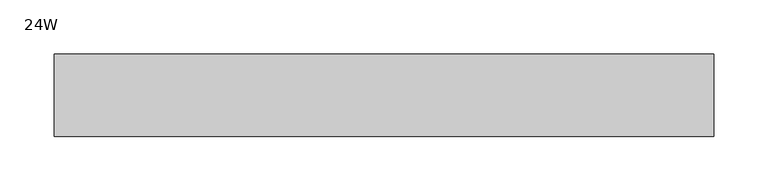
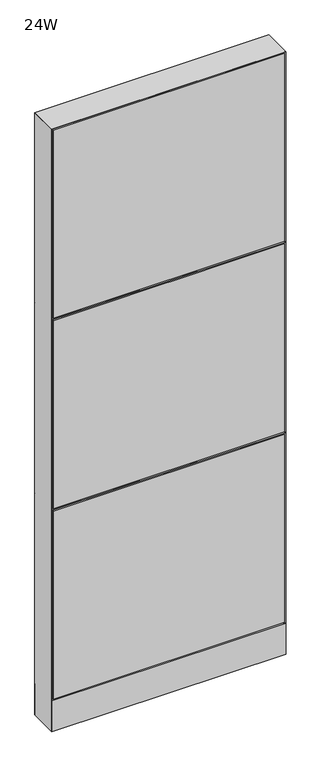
"""IFC4 building model written with IfcOpenShell, lengths in millimetres: furniture geometry, Steelcase - Montage - Frame - 65H - Enhanced Monolithic - Base Cavity : 24W."""

from ifc_helpers import new_model, si_unit, point, frame, frame_2d, origin, origin_with_axes, place, context, project, spatial, polyline, circle_curve, trimmed, segment, composite_curve, outline, extrude, faceted_brep, source, transform, mapped, element, save


def furniture_24w_cb8f0ce5(model_context):
    return source(origin(), model_context, "Body", "SolidModel", [
        extrude(outline(polyline([(3.175, 31.7500194), (3.175, 38.1000194), (606.425, 38.1000194), (606.425, 31.7500194), (3.175, 31.7500194)])), frame((0.0, 0.0, 92.075), z_axis=(0.0, 0.0, 1.0), x_axis=(1.0, 0.0, 0.0)), (0.0, 0.0, 1.0), 517.525),
        faceted_brep([(-5.4e-06, 38.102627, 612.7749973), (6.3499917, 31.7526299, 606.4250003), (6.3499917, 31.7526299, 619.1249997), (603.2500047, 31.7526299, 619.1249997), (603.2500047, 31.7526299, 606.4250003), (609.6, 38.1026253, 612.7749956)], [[[0, 1, 2]], [[3, 4, 5]], [[0, 2, 3, 5]], [[5, 4, 1, 0]], [[2, 1, 4, 3]]]),
        faceted_brep([(-5.4e-06, 38.102627, 1136.6499973), (6.3499917, 31.7526299, 1130.3000003), (6.3499917, 31.7526299, 1142.9999997), (603.2500047, 31.7526299, 1142.9999997), (603.2500047, 31.7526299, 1130.3000003), (609.6, 38.1026253, 1136.6499956)], [[[0, 1, 2]], [[3, 4, 5]], [[0, 2, 3, 5]], [[5, 4, 1, 0]], [[2, 1, 4, 3]]]),
        extrude(outline(polyline([(3.175, 31.7500194), (3.175, 38.1000194), (606.425, 38.1000194), (606.425, 31.7500194), (3.175, 31.7500194)])), frame((0.0, 0.0, 615.95), z_axis=(0.0, 0.0, 1.0), x_axis=(1.0, 0.0, 0.0)), (0.0, 0.0, 1.0), 517.525),
        extrude(outline(polyline([(3.175, 31.7500194), (3.175, 38.1000194), (606.425, 38.1000194), (606.425, 31.7500194), (3.175, 31.7500194)])), frame((0.0, 0.0, 1139.825), z_axis=(0.0, 0.0, 1.0), x_axis=(1.0, 0.0, 0.0)), (0.0, 0.0, 1.0), 517.525),
        extrude(outline(polyline([(3.175, -31.7500194), (606.425, -31.7500194), (606.425, -38.1000194), (3.175, -38.1000194), (3.175, -31.7500194)])), frame((0.0, 0.0, 92.075), z_axis=(0.0, 0.0, 1.0), x_axis=(1.0, 0.0, 0.0)), (0.0, 0.0, 1.0), 517.525),
        faceted_brep([(-5.4e-06, -38.102627, 612.7750027), (6.3499917, -31.7526299, 619.1249997), (6.3499917, -31.7526299, 606.4250003), (603.2500047, -31.7526299, 619.1249997), (609.6, -38.1026253, 612.7750044), (603.2500047, -31.7526299, 606.4250003)], [[[0, 1, 2]], [[3, 4, 5]], [[0, 4, 3, 1]], [[4, 0, 2, 5]], [[1, 3, 5, 2]]]),
        faceted_brep([(-5.4e-06, -38.102627, 1136.6500027), (6.3499917, -31.7526299, 1142.9999997), (6.3499917, -31.7526299, 1130.3000003), (603.2500047, -31.7526299, 1142.9999997), (609.6, -38.1026253, 1136.6500044), (603.2500047, -31.7526299, 1130.3000003)], [[[0, 1, 2]], [[3, 4, 5]], [[0, 4, 3, 1]], [[4, 0, 2, 5]], [[1, 3, 5, 2]]]),
        extrude(outline(polyline([(3.175, -31.7500194), (606.425, -31.7500194), (606.425, -38.1000194), (3.175, -38.1000194), (3.175, -31.7500194)])), frame((0.0, 0.0, 615.95), z_axis=(0.0, 0.0, 1.0), x_axis=(1.0, 0.0, 0.0)), (0.0, 0.0, 1.0), 517.525),
        extrude(outline(polyline([(3.175, -31.7500194), (606.425, -31.7500194), (606.425, -38.1000194), (3.175, -38.1000194), (3.175, -31.7500194)])), frame((0.0, 0.0, 1139.825), z_axis=(0.0, 0.0, 1.0), x_axis=(1.0, 0.0, 0.0)), (0.0, 0.0, 1.0), 517.525),
        extrude(outline(polyline([(6.350003, -31.7499985), (603.249997, -31.7499985), (609.6, -38.1000015), (0.0, -38.1000015), (6.350003, -31.7499985)])), frame((0.0, 0.0, 4.064), z_axis=(0.0, 0.0, 1.0), x_axis=(1.0, 0.0, 0.0)), (0.0, 0.0, 1.0), 84.835997),
        extrude(outline(polyline([(6.3500002, 31.7500017), (0.0, 38.1000015), (609.6, 38.1000015), (603.2500002, 31.7500017), (6.3500002, 31.7500017)])), frame((0.0, 0.0, 4.064), z_axis=(0.0, 0.0, 1.0), x_axis=(1.0, 0.0, 0.0)), (0.0, 0.0, 1.0), 84.835997),
        faceted_brep([(609.6, -38.1000015, 1660.525), (0.0, -38.1000015, 1660.525), (6.3500484, -31.749953, 1654.1749516), (603.2499516, -31.749953, 1654.1749516), (6.3500484, 31.749953, 1654.1749516), (603.2499516, 31.749953, 1654.1749516), (0.0, 38.1000015, 1660.525), (609.6, 38.1000015, 1660.525)], [[[0, 1, 2, 3]], [[3, 2, 4, 5]], [[6, 7, 5, 4]], [[1, 0, 7, 6]], [[2, 1, 6, 4]], [[0, 3, 5, 7]]]),
        extrude(outline(composite_curve([segment(trimmed(circle_curve(frame_2d((44.45, 0.0)), 15.24), [point((29.21, 0.0))], [point((59.69, 0.0))], False, "CARTESIAN"), True, "CONTINUOUS"), segment(trimmed(circle_curve(frame_2d((44.45, 0.0)), 15.24), [point((59.69, 0.0))], [point((29.21, 0.0))], False, "CARTESIAN"), True, "CONTINUOUS")], self_intersect=False)), origin_with_axes(), (0.0, 0.0, 1.0), 4.064),
        extrude(outline(composite_curve([segment(trimmed(circle_curve(frame_2d((565.15, 0.0)), 15.24), [point((549.91, 0.0))], [point((580.39, 0.0))], False, "CARTESIAN"), True, "CONTINUOUS"), segment(trimmed(circle_curve(frame_2d((565.15, 0.0)), 15.24), [point((580.39, 0.0))], [point((549.91, 0.0))], False, "CARTESIAN"), True, "CONTINUOUS")], self_intersect=False)), origin_with_axes(), (0.0, 0.0, 1.0), 4.064),
        faceted_brep([(609.6, -38.1000106, 4.064), (609.6, 38.1000015, 4.064), (609.6, 38.1000015, 1660.525), (609.6, -38.1000106, 1660.5249637), (0.0, 38.1000015, 4.064), (0.0, -38.1000015, 4.064), (0.0, -38.1000015, 1660.525), (0.0, 38.1000015, 1660.525), (603.2499879, 31.7500017, 606.425), (6.35, 31.7500017, 606.425), (6.3499998, 31.7500017, 619.125), (603.2499879, 31.7500017, 619.125), (6.35, -31.7499985, 619.125), (603.2499879, -31.7499985, 619.125), (6.350003, -31.7499985, 606.425), (603.2499879, -31.7499985, 606.425), (603.2499879, 31.7500017, 1130.3), (6.35, 31.7500017, 1130.3), (6.3499998, 31.7500017, 1143.0), (603.2499879, 31.7500017, 1143.0), (6.35, -31.7499985, 1143.0), (603.2499879, -31.7499985, 1143.0), (6.350003, -31.7499985, 1130.3), (603.2499879, -31.7499985, 1130.3), (6.35, 31.7500015, 4.064), (6.35, -31.7500015, 4.064), (603.2499879, 31.7499894, 4.064), (603.2499879, -31.7499985, 4.064), (6.35, 31.7500015, 1654.175), (6.35, -31.7500015, 1654.175), (603.2499879, -31.7499985, 1654.1749516), (603.2499879, 31.7499895, 1654.1749516)], [[[0, 1, 2, 3]], [[4, 5, 6, 7]], [[8, 9, 10, 11]], [[11, 10, 12, 13]], [[13, 12, 14, 15]], [[9, 8, 15, 14]], [[16, 17, 18, 19]], [[19, 18, 20, 21]], [[21, 20, 22, 23]], [[17, 16, 23, 22]], [[24, 25, 5, 4]], [[26, 1, 0, 27]], [[24, 4, 7, 28, 18, 17, 10, 9]], [[5, 25, 14, 12, 22, 20, 29, 6]], [[20, 18, 28, 29]], [[25, 24, 9, 14]], [[10, 17, 22, 12]], [[19, 21, 30, 31]], [[26, 27, 15, 8]], [[16, 11, 13, 23]], [[27, 0, 3, 30, 21, 23, 13, 15]], [[1, 26, 8, 11, 16, 19, 31, 2]], [[7, 6, 29, 28]], [[3, 2, 31, 30]]]),
    ])


if __name__ == "__main__":
    model = new_model("IFC4")
    model_context = context("Model", 3, world=origin())
    ifc_project = project(units=[si_unit("LENGTHUNIT", "METRE", prefix="MILLI")], contexts=[model_context])
    site = spatial("IfcSite", under=ifc_project)
    building = spatial("IfcBuilding", under=site)
    placement = place(None, origin())
    furniture_24w_shape = furniture_24w_cb8f0ce5(model_context)
    element("IfcFurniture", 1, ObjectType="Steelcase - Montage - Frame - 65H - Enhanced Monolithic - Base Cavity : 24W", at=placement, inside=building, context=model_context, shape_type="MappedRepresentation", body=[
        mapped(furniture_24w_shape, transform((0.0, 0.0, 0.0), x_axis=(1.0, 0.0, 0.0), y_axis=(0.0, 1.0, 0.0), z_axis=(0.0, 0.0, 1.0))),
    ])
    save(model, "model.ifc")
